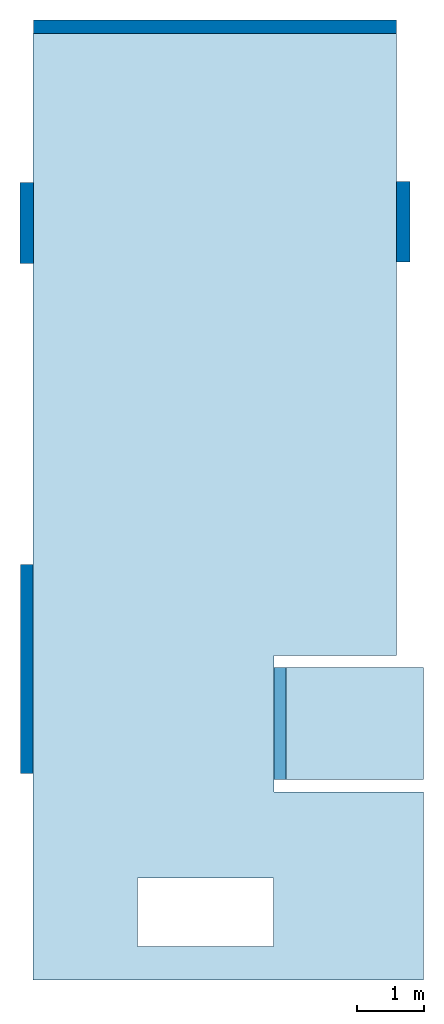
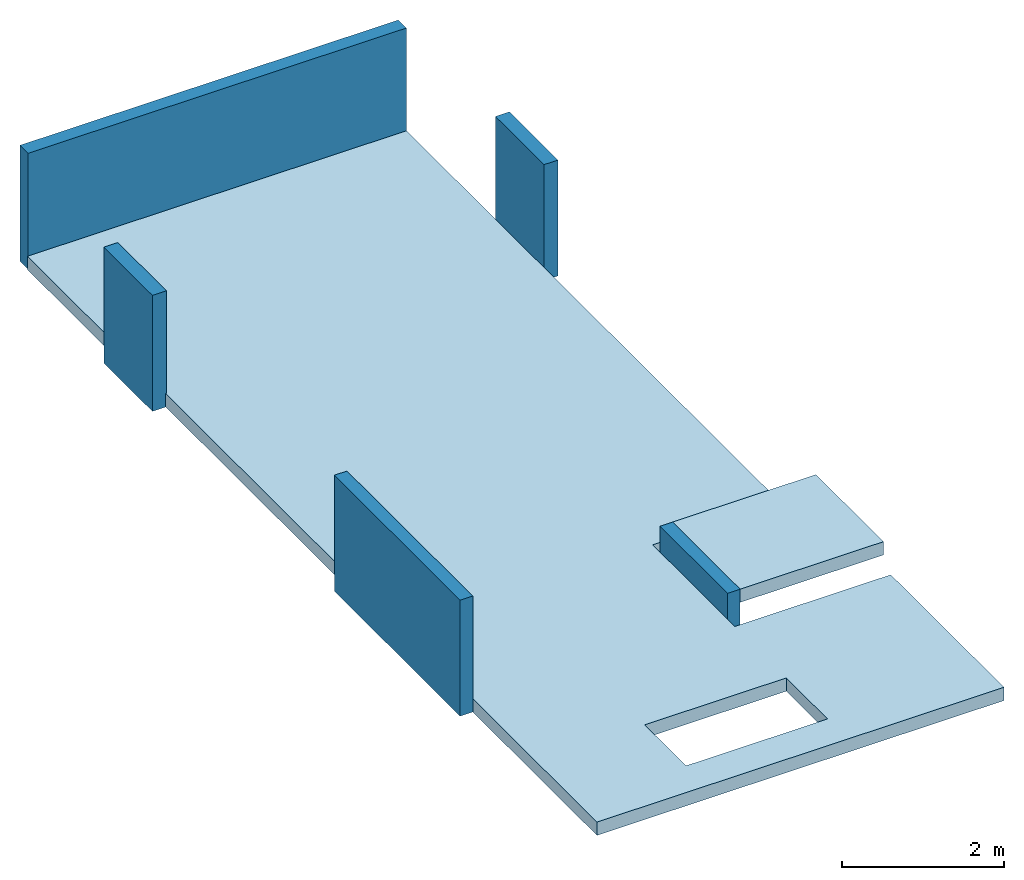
# One storey: 5 walls, 2 slabs, 1 opening.
"""IFC2X3 building model written with IfcOpenShell, lengths in metres."""

from ifc_helpers import new_model, entity, si_unit, converted_unit, derived_unit, direction, frame, frame_2d, origin, place, context, subcontext, project, spatial, polyline, rectangle, outline, extrude, material, layer, layer_set, layer_usage, type_object, element, save


model = new_model("IFC2X3")

# Units and contexts
model_context = context("Model", 3, precision=1e-05, world=origin(), true_north=direction((6.12303176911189e-17, 1.0)))
context_of_model = context(None, 3, precision=1e-05, world=origin(), true_north=direction((6.12303176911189e-17, 1.0)))
body_context = subcontext(model_context, "Body", "Model", "MODEL_VIEW")
ifc_project = project(units=[si_unit("LENGTHUNIT", "METRE"), si_unit("AREAUNIT", "SQUARE_METRE"), si_unit("VOLUMEUNIT", "CUBIC_METRE"), converted_unit("PLANEANGLEUNIT", "DEGREE", entity("IfcRatioMeasure", 0.0174532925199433), si_unit("PLANEANGLEUNIT", "RADIAN"), dimensions=[0, 0, 0, 0, 0, 0, 0]), si_unit("MASSUNIT", "GRAM", prefix="KILO"), si_unit("TIMEUNIT", "SECOND"), si_unit("FREQUENCYUNIT", "HERTZ"), si_unit("THERMODYNAMICTEMPERATUREUNIT", "DEGREE_CELSIUS"), derived_unit("THERMALTRANSMITTANCEUNIT", [(si_unit("MASSUNIT", "GRAM", prefix="KILO"), 1), (si_unit("THERMODYNAMICTEMPERATUREUNIT", "KELVIN"), -1), (si_unit("TIMEUNIT", "SECOND"), -3)]), derived_unit("VOLUMETRICFLOWRATEUNIT", [(si_unit("LENGTHUNIT", "METRE"), 3), (si_unit("TIMEUNIT", "SECOND"), -1)]), si_unit("ELECTRICCURRENTUNIT", "AMPERE"), si_unit("ELECTRICVOLTAGEUNIT", "VOLT"), si_unit("POWERUNIT", "WATT"), si_unit("FORCEUNIT", "NEWTON"), si_unit("ILLUMINANCEUNIT", "LUX"), si_unit("LUMINOUSFLUXUNIT", "LUMEN"), si_unit("LUMINOUSINTENSITYUNIT", "CANDELA"), si_unit("PRESSUREUNIT", "PASCAL")], contexts=[model_context, context_of_model])

# Site, building, storey
site_placement = place(None, origin())
site = spatial("IfcSite", under=ifc_project, at=site_placement, Name="Default", CompositionType="ELEMENT")
building_placement = place(site_placement, origin())
building = spatial("IfcBuilding", under=site, at=building_placement, Name="BATIMENT 1", CompositionType="ELEMENT")
storey_placement = place(building_placement, frame((0.0, 0.0, 10.25)))
storey = spatial("IfcBuildingStorey", under=building, at=storey_placement, Name="Terrasse brut", CompositionType="ELEMENT", Elevation=10.25)

# Slab, opening
ifc_material = material(Name="AEC Béton, C25/30")
ifc_layer_1 = layer(ifc_material, 0.2)
ifc_layer_set_1 = layer_set([ifc_layer_1], Name="Sol:BG DALLE BA 0.20 C25/30")
ifc_layer_usage_1 = layer_usage(ifc_layer_set_1, "AXIS3", "POSITIVE", 0.0)
slab_1_placement = place(storey_placement, frame((-2.91365303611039, -12.7474623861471, -0.199999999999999)))
slab_1 = element("IfcSlab", 1, at=slab_1_placement, inside=storey, material=ifc_layer_usage_1, Name="Sol:BG DALLE BA 0.20 C25/30", ObjectType="Sol:BG DALLE BA 0.20 C25/30", PredefinedType="FLOOR", context=body_context, shape_type="SweptSolid", body=[
    extrude(outline(polyline([(-2.505, 7.03999999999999), (-2.50499999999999, -2.21000000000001), (-0.680000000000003, -2.21), (-0.679999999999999, -4.24), (-2.90499999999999, -4.24000000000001), (-2.90499999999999, -7.04000000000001), (2.90500000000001, -7.03999999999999), (2.90499999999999, 7.04000000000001), (-2.505, 7.03999999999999)])), frame((2.90500000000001, 7.04000000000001, 0.2), z_axis=(0.0, 0.0, -1.0), x_axis=(-1.0, 0.0, 0.0)), (0.0, 0.0, 1.0), 0.2),
])
opening_placement = place(storey_placement, frame((-2.91365303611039, -12.7474623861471, -0.199999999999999)))
element("IfcOpeningElement", 2, at=opening_placement, cuts=slab_1, ObjectType="Opening", context=body_context, shape_type="SweptSolid", body=[
    extrude(rectangle(XDim=1.02, YDim=2.02, at=frame_2d((0.335000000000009, -6.03), x_axis=(0.0, -1.0))), frame((2.90500000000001, 7.04000000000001, 0.2), z_axis=(0.0, 0.0, -1.0), x_axis=(-1.0, 0.0, 0.0)), (0.0, 0.0, 1.0), 0.2),
])

# Slab
ifc_layer_usage_2 = layer_usage(ifc_layer_set_1, "AXIS3", "POSITIVE", 0.0)
slab_2_placement = place(storey_placement, origin())
element("IfcSlab", 3, at=slab_2_placement, inside=storey, material=ifc_layer_usage_2, Name="Sol:BG DALLE BA 0.20 C25/30", ObjectType="Sol:BG DALLE BA 0.20 C25/30", PredefinedType="FLOOR", context=body_context, shape_type="SweptSolid", body=[
    extrude(rectangle(XDim=1.67000000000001, YDim=2.04499999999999, at=frame_2d((0.0, 1.11022302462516e-16), x_axis=(1.0, 0.0))), frame((1.87384696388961, -8.93246238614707, 0.39), z_axis=(0.0, 0.0, -1.0), x_axis=(0.0, 1.0, 0.0)), (0.0, 0.0, 1.0), 0.2),
])

# Walls
ifc_layer_2 = layer(ifc_material, 0.2)
ifc_layer_set_2 = layer_set([ifc_layer_2], Name="Mur de base:BG VOILE BA 0.20 C25/30")
ifc_layer_usage_3 = layer_usage(ifc_layer_set_2, "AXIS2", "NEGATIVE", 0.1)
wall_type_1 = type_object("IfcWallType", Name="Mur de base:BG VOILE BA 0.20 C25/30", PredefinedType="STANDARD", material=ifc_layer_set_2)
wall_1_placement = place(storey_placement, frame((-2.90365303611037, 1.43253761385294, -0.2)))
element("IfcWallStandardCase", 4, at=wall_1_placement, inside=storey, type_object=wall_type_1, material=ifc_layer_usage_3, Name="Mur de base:BG VOILE BA 0.20 C25/30", ObjectType="Mur de base:BG VOILE BA 0.20 C25/30", context=body_context, shape_type="SweptSolid", body=[
    extrude(rectangle(XDim=5.39999999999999, YDim=0.2, at=frame_2d((2.7, -4.85722573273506e-17), x_axis=(-1.0, 0.0))), origin(), (0.0, 0.0, 1.0), 1.75),
])
ifc_layer_usage_4 = layer_usage(ifc_layer_set_2, "AXIS2", "NEGATIVE", 0.1)
wall_2_placement = place(storey_placement, frame((2.59634696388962, -0.867462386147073, -0.2), z_axis=(0.0, 0.0, 1.0), x_axis=(0.0, -1.0, 0.0)))
element("IfcWallStandardCase", 5, at=wall_2_placement, inside=storey, type_object=wall_type_1, material=ifc_layer_usage_4, Name="Mur de base:BG VOILE BA 0.20 C25/30", ObjectType="Mur de base:BG VOILE BA 0.20 C25/30", context=body_context, shape_type="SweptSolid", body=[
    extrude(rectangle(XDim=1.2, YDim=0.2, at=frame_2d((0.6, 0.0), x_axis=(-1.0, 0.0))), origin(), (0.0, 0.0, 1.0), 1.75),
])
ifc_layer_usage_5 = layer_usage(ifc_layer_set_2, "AXIS2", "NEGATIVE", 0.1)
wall_3_placement = place(storey_placement, frame((-3.00365303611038, -0.887462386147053, -0.2), z_axis=(0.0, 0.0, 1.0), x_axis=(0.0, -1.0, 0.0)))
element("IfcWallStandardCase", 6, at=wall_3_placement, inside=storey, type_object=wall_type_1, material=ifc_layer_usage_5, Name="Mur de base:BG VOILE BA 0.20 C25/30", ObjectType="Mur de base:BG VOILE BA 0.20 C25/30", context=body_context, shape_type="SweptSolid", body=[
    extrude(rectangle(XDim=1.2, YDim=0.2, at=frame_2d((0.6, 0.0), x_axis=(-1.0, 0.0))), origin(), (0.0, 0.0, 1.0), 1.75),
])
ifc_layer_3 = layer(ifc_material, 0.18)
ifc_layer_set_3 = layer_set([ifc_layer_3], Name="Mur de base:BG VOILE BA 0.18 C25/30")
ifc_layer_usage_6 = layer_usage(ifc_layer_set_3, "AXIS2", "NEGATIVE", 0.09)
wall_type_2 = type_object("IfcWallType", Name="Mur de base:BG VOILE BA 0.18 C25/30", PredefinedType="STANDARD", material=ifc_layer_set_3)
wall_4_placement = place(storey_placement, frame((-3.00365303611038, -6.56746238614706, -0.2), z_axis=(0.0, 0.0, 1.0), x_axis=(0.0, -1.0, 0.0)))
element("IfcWallStandardCase", 7, at=wall_4_placement, inside=storey, type_object=wall_type_2, material=ifc_layer_usage_6, Name="Mur de base:BG VOILE BA 0.18 C25/30", ObjectType="Mur de base:BG VOILE BA 0.18 C25/30", context=body_context, shape_type="SweptSolid", body=[
    extrude(rectangle(XDim=3.11, YDim=0.18, at=frame_2d((1.555, 9.71445146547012e-17), x_axis=(-1.0, 0.0))), origin(), (0.0, 0.0, 1.0), 1.75),
])
ifc_layer_usage_7 = layer_usage(ifc_layer_set_3, "AXIS2", "NEGATIVE", 0.09)
wall_5_placement = place(storey_placement, frame((0.76134696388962, -8.09746238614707, -0.2), z_axis=(0.0, 0.0, 1.0), x_axis=(0.0, -1.0, 0.0)))
element("IfcWallStandardCase", 8, at=wall_5_placement, inside=storey, type_object=wall_type_2, material=ifc_layer_usage_7, Name="Mur de base:BG VOILE BA 0.18 C25/30", ObjectType="Mur de base:BG VOILE BA 0.18 C25/30", context=body_context, shape_type="SweptSolid", body=[
    extrude(rectangle(XDim=1.67, YDim=0.18, at=frame_2d((0.835, 1.38777878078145e-17), x_axis=(-1.0, 0.0))), origin(), (0.0, 0.0, 1.0), 0.59),
])

save(model, "model.ifc")
